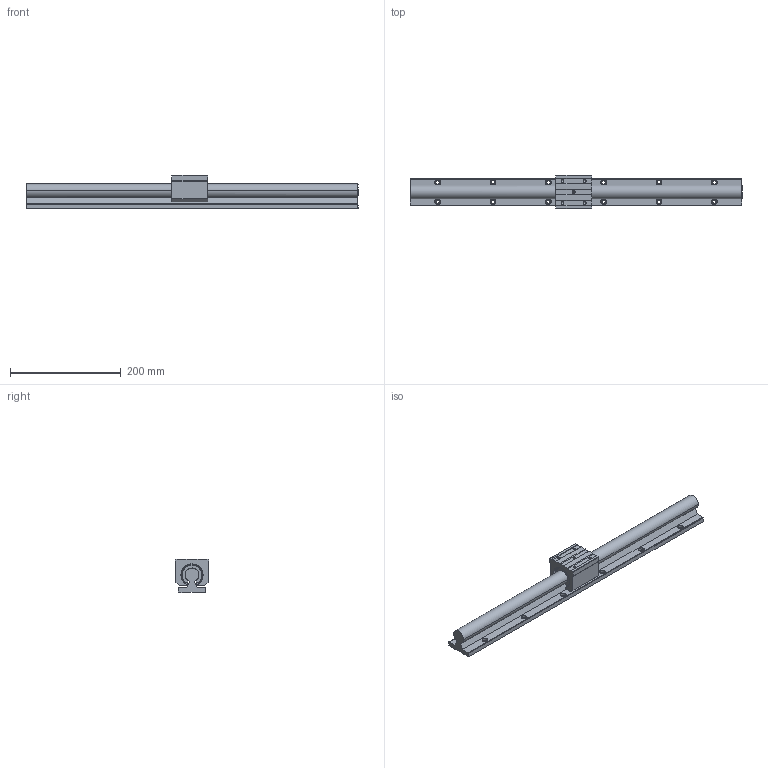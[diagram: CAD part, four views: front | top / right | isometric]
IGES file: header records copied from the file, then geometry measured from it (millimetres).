
Global section: file name: No Iges File Name specified; native system: AutoDesk Inventor R10; preprocessor: AutoDesk Inventor Iges Exporter R10; author: No Author specified; organization: No Organization specified; date: 20101221.091158; units: millimetre
Bounding box: 600 x 60 x 60 mm (x, y, z)
Surface area: 143850.2 mm2 (no closed solid volume)
Topology: 0 solids, 0 shells, 176 faces, 1256 edges, 1246 vertices
Faces by surface type: bspline 176
